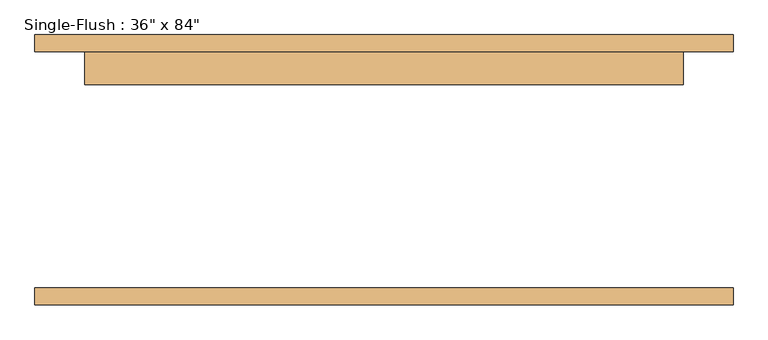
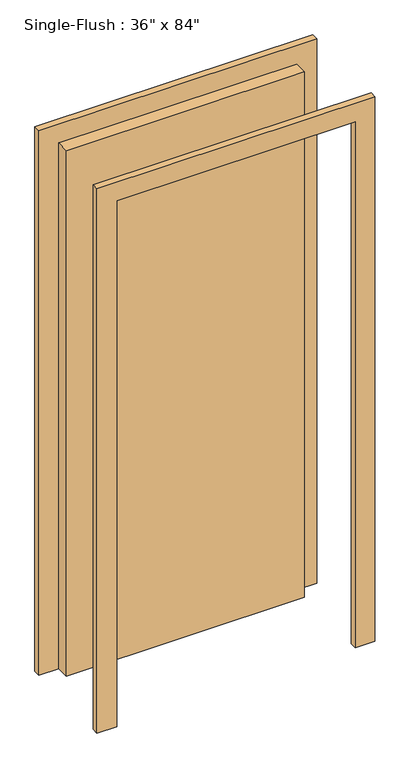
"""IFC4 building model written with IfcOpenShell, lengths in millimetres: door geometry."""

import ifcopenshell
import ifcopenshell.guid

model = None  # the IFC model being written
_history = None  # IfcOwnerHistory: only IFC2X3 demands one
_inside = {}  # id of a spatial element -> (the spatial element, [elements in it])
_under = {}  # id of a project, library or spatial element -> (it, [spatial elements below it])
_declared = {}  # id of a project -> (the project, [libraries it declares])
_typed = {}  # id of a type object -> (the type object, [elements of that type])
_made_of = {}  # id of a material, layer set ... -> (it, [elements and type objects made of it])


def new_model(schema):
    """Start an empty IFC model of exactly this schema.

    Asked for "IFC4X3", IfcOpenShell would pick the latest addendum, in which some entities
    have other attributes; the version numbers below select the first issue.
    IFC2X3 requires an IfcOwnerHistory on every rooted entity: one is made here for all.
    """
    global model, _history
    if schema == "IFC4X3":
        model = ifcopenshell.file(schema_version=(4, 3, 0, 0))
    else:
        model = ifcopenshell.file(schema=schema)
    _inside.clear()
    _under.clear()
    _declared.clear()
    _typed.clear()
    _made_of.clear()
    _history = None
    if model.schema == "IFC2X3":
        org = make("IfcOrganization", Name="unknown")
        user = make(
            "IfcPersonAndOrganization",
            ThePerson=make("IfcPerson", FamilyName="unknown"),
            TheOrganization=org,
        )
        app = make(
            "IfcApplication",
            ApplicationDeveloper=org,
            Version="unknown",
            ApplicationFullName="unknown",
            ApplicationIdentifier="unknown",
        )
        _history = make(
            "IfcOwnerHistory",
            OwningUser=user,
            OwningApplication=app,
            ChangeAction="ADDED",
            CreationDate=0,
        )
    return model


def make(cls, **values):
    """One entity of the class cls with the attributes given. An attribute that is None is left unset."""
    return model.create_entity(
        cls, **{name: value for name, value in values.items() if value is not None}
    )


def rooted(cls, **values):
    """An entity with a GlobalId (a new one), such as an element, a storey or a relation."""
    return make(cls, GlobalId=ifcopenshell.guid.new(), OwnerHistory=_history, **values)


def si_unit(unit_type, name, prefix=None):
    """IfcSIUnit, for example si_unit("LENGTHUNIT", "METRE", prefix="MILLI")."""
    return make("IfcSIUnit", UnitType=unit_type, Prefix=prefix, Name=name)


def assignment(units):
    """IfcUnitAssignment: the units of a project."""
    return None if units is None else make("IfcUnitAssignment", Units=units)


def point(xyz):
    """IfcCartesianPoint."""
    return None if xyz is None else make("IfcCartesianPoint", Coordinates=xyz)


def direction(xyz):
    """IfcDirection."""
    return None if xyz is None else make("IfcDirection", DirectionRatios=xyz)


def frame(location, z_axis=None, x_axis=None):
    """IfcAxis2Placement3D, a coordinate frame: its origin and axes. An axis left out is left unset."""
    return make(
        "IfcAxis2Placement3D",
        Location=point(location),
        Axis=direction(z_axis),
        RefDirection=direction(x_axis),
    )


def origin():
    """The frame at (0, 0, 0) with its axes left unset."""
    return frame((0.0, 0.0, 0.0))


def origin_with_axes():
    """The frame at (0, 0, 0) with the z axis (0, 0, 1) and the x axis (1, 0, 0) written out."""
    return frame((0.0, 0.0, 0.0), z_axis=(0.0, 0.0, 1.0), x_axis=(1.0, 0.0, 0.0))


def place(relative_to, where):
    """IfcLocalPlacement: puts the frame where relative to a parent placement (None: the world)."""
    return make(
        "IfcLocalPlacement", PlacementRelTo=relative_to, RelativePlacement=where
    )


def context(
    kind, dimensions, precision=None, world=None, true_north=None, identifier=None
):
    """IfcGeometricRepresentationContext, for example the 3D "Model" context."""
    return make(
        "IfcGeometricRepresentationContext",
        ContextIdentifier=identifier,
        ContextType=kind,
        CoordinateSpaceDimension=dimensions,
        Precision=precision,
        WorldCoordinateSystem=world,
        TrueNorth=true_north,
    )


def project(units=None, contexts=None):
    """IfcProject with its units and contexts."""
    return rooted(
        "IfcProject",
        Name="project",
        RepresentationContexts=contexts,
        UnitsInContext=assignment(units),
    )


def spatial(cls, under=None, at=None, **own):
    """A site, building, storey or space (cls), placed at a placement, below another one or the project."""
    s = rooted(cls, ObjectPlacement=at, **own)
    if under is not None:
        _under.setdefault(under.id(), (under, []))[1].append(s)
    return s


def polyline(points):
    """IfcPolyline through the points."""
    return make("IfcPolyline", Points=[point(p) for p in points])


def outline(outer, holes=None, kind="AREA"):
    """IfcArbitraryClosedProfileDef: a profile drawn as a closed curve; with holes, ...WithVoids."""
    if holes is None:
        return make("IfcArbitraryClosedProfileDef", ProfileType=kind, OuterCurve=outer)
    return make(
        "IfcArbitraryProfileDefWithVoids",
        ProfileType=kind,
        OuterCurve=outer,
        InnerCurves=holes,
    )


def extrude(swept, where, along, depth):
    """IfcExtrudedAreaSolid: the profile swept, set in the frame where, extruded along a direction by depth."""
    return make(
        "IfcExtrudedAreaSolid",
        SweptArea=swept,
        Position=where,
        ExtrudedDirection=direction(along),
        Depth=depth,
    )


def shape(context_of_items, identifier, shape_type, items):
    """IfcShapeRepresentation: the items that make up one representation, for example the "Body"."""
    return make(
        "IfcShapeRepresentation",
        ContextOfItems=context_of_items,
        RepresentationIdentifier=identifier,
        RepresentationType=shape_type,
        Items=items,
    )


def source(mapping_origin, context_of_items, identifier, shape_type, items):
    """IfcRepresentationMap: a shape defined once, which mapped items show again and again."""
    return make(
        "IfcRepresentationMap",
        MappingOrigin=mapping_origin,
        MappedRepresentation=shape(context_of_items, identifier, shape_type, items),
    )


def transform(
    local_origin,
    x_axis=None,
    y_axis=None,
    z_axis=None,
    scale=None,
    scale2=None,
    scale3=None,
    uniform=True,
):
    """IfcCartesianTransformationOperator3D, or its non-uniform kind. x_axis, y_axis, z_axis: its Axis1, 2, 3."""
    if uniform:
        return make(
            "IfcCartesianTransformationOperator3D",
            Axis1=direction(x_axis),
            Axis2=direction(y_axis),
            LocalOrigin=point(local_origin),
            Scale=scale,
            Axis3=direction(z_axis),
        )
    return make(
        "IfcCartesianTransformationOperator3DnonUniform",
        Axis1=direction(x_axis),
        Axis2=direction(y_axis),
        LocalOrigin=point(local_origin),
        Scale=scale,
        Axis3=direction(z_axis),
        Scale2=scale2,
        Scale3=scale3,
    )


def mapped(mapping_source, mapping_target):
    """IfcMappedItem: shows the shape of a source again, moved by a transform."""
    return make(
        "IfcMappedItem", MappingSource=mapping_source, MappingTarget=mapping_target
    )


def made_of(thing, what):
    """Note that an element or type object is made of a material, layer set ...; save() writes the relation."""
    if what is not None:
        _made_of.setdefault(what.id(), (what, []))[1].append(thing)
    return thing


def element(
    cls,
    number,
    at=None,
    inside=None,
    cuts=None,
    type_object=None,
    material=None,
    context=None,
    identifier="Body",
    shape_type=None,
    held_by="IfcProductDefinitionShape",
    body=None,
    shapes=None,
    **own,
):
    """One element of the class cls, such as IfcWall. Its Tag is "e" and its number.

    at: its placement. inside: the storey or other place that contains it. cuts: it is an
    opening in that element (IfcRelVoidsElement). A single representation is given by context,
    identifier, shape_type and body (its items); several are given by shapes. held_by: the class
    of the entity that holds the representations. save() writes the other relations.
    """
    e = rooted(cls, Tag="e%d" % number, ObjectPlacement=at, **own)
    if body is not None:
        shapes = [shape(context, identifier, shape_type, body)]
    if shapes is not None:
        e.Representation = make(held_by, Representations=shapes)
    if inside is not None:
        _inside.setdefault(inside.id(), (inside, []))[1].append(e)
    if cuts is not None:
        rooted(
            "IfcRelVoidsElement", RelatingBuildingElement=cuts, RelatedOpeningElement=e
        )
    if type_object is not None:
        _typed.setdefault(type_object.id(), (type_object, []))[1].append(e)
    return made_of(e, material)


def aggregate(whole, parts):
    """IfcRelAggregates: a whole, such as a stair, and the parts it consists of."""
    return rooted("IfcRelAggregates", RelatingObject=whole, RelatedObjects=parts)


def save(model, path):
    """Write the relations noted so far, then the file.

    IfcRelAggregates (storeys below a building ...), IfcRelContainedInSpatialStructure (elements
    in a storey), IfcRelDefinesByType, IfcRelAssociatesMaterial and IfcRelDeclares: one each for
    every whole, place, type object, material and project.
    """
    for whole, parts in _under.values():
        aggregate(whole, parts)
    for where, things in _inside.values():
        rooted(
            "IfcRelContainedInSpatialStructure",
            RelatedElements=things,
            RelatingStructure=where,
        )
    for kind, things in _typed.values():
        rooted("IfcRelDefinesByType", RelatedObjects=things, RelatingType=kind)
    for what, things in _made_of.values():
        rooted("IfcRelAssociatesMaterial", RelatedObjects=things, RelatingMaterial=what)
    for by, libraries in _declared.values():
        rooted("IfcRelDeclares", RelatingContext=by, RelatedDefinitions=libraries)
    model.write(path)


def door_647704b8(model_context):
    return source(origin(), model_context, "Body", "SweptSolid", [
        extrude(outline(polyline([(2209.8, -533.4), (0.0, -533.4), (0.0, -457.2), (2133.6, -457.2), (2133.6, 457.2), (0.0, 457.2), (0.0, 533.4), (2209.8, 533.4), (2209.8, -533.4)])), frame((0.0, 180.975, 0.0), z_axis=(0.0, 1.0, 0.0), x_axis=(0.0, 0.0, 1.0)), (0.0, 0.0, 1.0), 25.4),
        extrude(outline(polyline([(2209.8, 533.4), (2209.8, -533.4), (0.0, -533.4), (0.0, -457.2), (2133.6, -457.2), (2133.6, 457.2), (0.0, 457.2), (0.0, 533.4), (2209.8, 533.4)])), frame((0.0, -206.375, 0.0), z_axis=(0.0, 1.0, 0.0), x_axis=(0.0, 0.0, 1.0)), (0.0, 0.0, 1.0), 25.4),
        extrude(outline(polyline([(457.2, 130.175), (-457.2, 130.175), (-457.2, 180.975), (457.2, 180.975), (457.2, 130.175)])), origin_with_axes(), (0.0, 0.0, 1.0), 2133.6),
    ])


if __name__ == "__main__":
    model = new_model("IFC4")
    model_context = context("Model", 3, world=origin())
    ifc_project = project(units=[si_unit("LENGTHUNIT", "METRE", prefix="MILLI")], contexts=[model_context])
    site = spatial("IfcSite", under=ifc_project)
    building = spatial("IfcBuilding", under=site)
    placement = place(None, origin())
    door_shape = door_647704b8(model_context)
    element("IfcDoor", 1, ObjectType="Single-Flush : 36\" x 84\"", at=placement, inside=building, context=model_context, shape_type="MappedRepresentation", body=[
        mapped(door_shape, transform((0.0, 0.0, 0.0), x_axis=(1.0, 0.0, 0.0), y_axis=(0.0, 1.0, 0.0), z_axis=(0.0, 0.0, 1.0))),
    ])
    save(model, "model.ifc")
